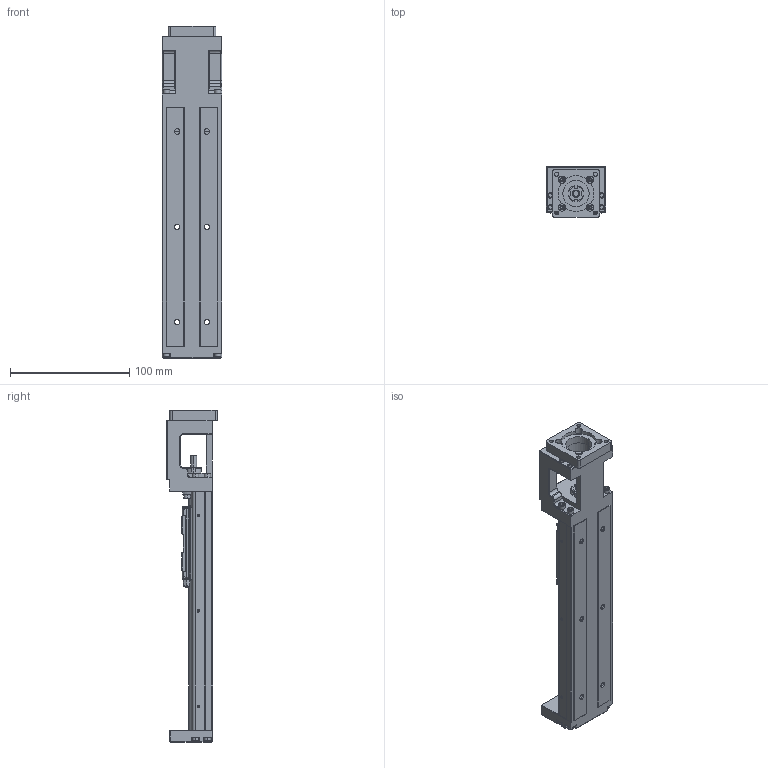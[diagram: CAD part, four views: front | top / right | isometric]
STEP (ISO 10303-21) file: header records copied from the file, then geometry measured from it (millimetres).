
FILE_DESCRIPTION (( 'STEP AP214' ), '1' );
FILE_NAME ('7.0101 KT5002C-200A1-F1.STEP', '2026-03-17T09:39:59', ( '' ), ( '' ), 'SwSTEP 2.0', 'SolidWorks 2025', '' );
FILE_SCHEMA (( 'AUTOMOTIVE_DESIGN' ));
Length unit declared in the file: millimetre
Products named in the file (4): KT-50-F1 Delta 100W motor plate; KT50-K0_200; 7.0101 KT5002C-200A1-F1; KT50-FS-0802
Assembly tree (3 placements, depth 2):
  7.0101 KT5002C-200A1-F1
    KT50-K0_200
    KT50-FS-0802
    KT-50-F1 Delta 100W motor plate
Bounding box: 50 x 42.7 x 278.5 mm (x, y, z)
Volume: 215203.4 mm3; surface area: 84721.4 mm2
Topology: 22 solids, 22 shells, 1820 faces, 4816 edges, 3108 vertices
Faces by surface type: plane 1188, cylinder 454, cone 87, torus 59, bspline 17, sphere 15
Entity records: 75204 total; most frequent: CARTESIAN_POINT 12014, ORIENTED_EDGE 9542, DIRECTION 9315, EDGE_CURVE 4771, LINE 3481, VECTOR 3481, VERTEX_POINT 3106, AXIS2_PLACEMENT_3D 2917
